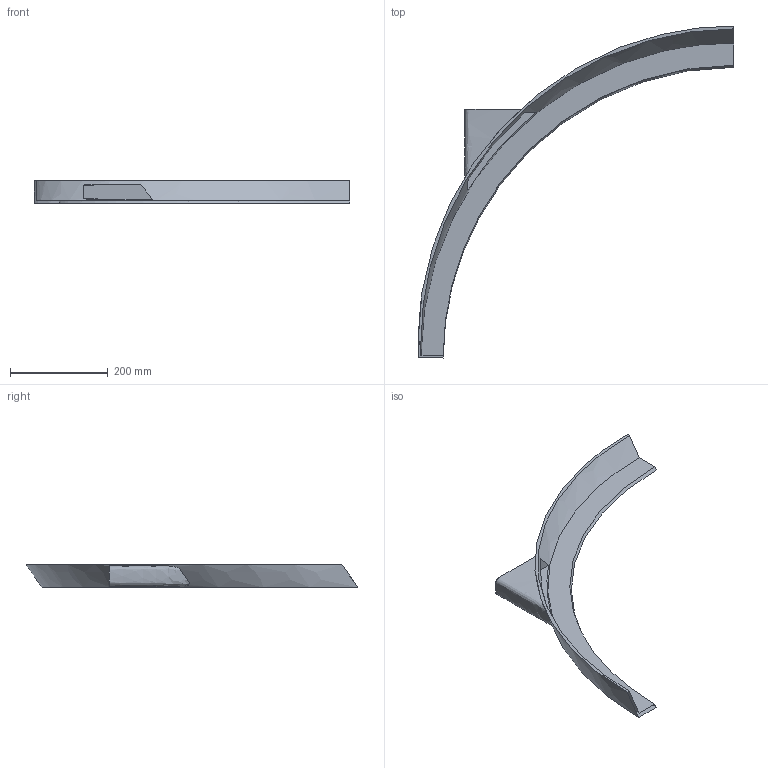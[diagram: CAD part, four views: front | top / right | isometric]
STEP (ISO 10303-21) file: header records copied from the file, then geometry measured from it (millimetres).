
FILE_DESCRIPTION(/* description */ (''),/* implementation_level */ '2;1');
FILE_NAME(/* name */ 'bar_5_left',/* time_stamp */ '2018-02-20T19:19:48+01:00',/* author */ (''),/* organization */ (''),/* preprocessor_version */ 'ST-DEVELOPER v14',/* originating_system */ '',/* authorisation */ '');
FILE_SCHEMA (('CONFIG_CONTROL_DESIGN'));
Length unit declared in the file: millimetre
Products named in the file (1): Document
Bounding box: 647 x 679.91 x 47 mm (x, y, z)
Surface area: 244826.8 mm2 (no closed solid volume)
Topology: 0 solids, 1 shells, 10 faces, 24 edges, 16 vertices
Faces by surface type: bspline 8, plane 2
Entity records: 1092 total; most frequent: CARTESIAN_POINT 856, ORIENTED_EDGE 36, EDGE_CURVE 24, B_SPLINE_CURVE_WITH_KNOTS 22, VERTEX_POINT 16, EDGE_LOOP 12, ADVANCED_FACE 10, FACE_OUTER_BOUND 10
